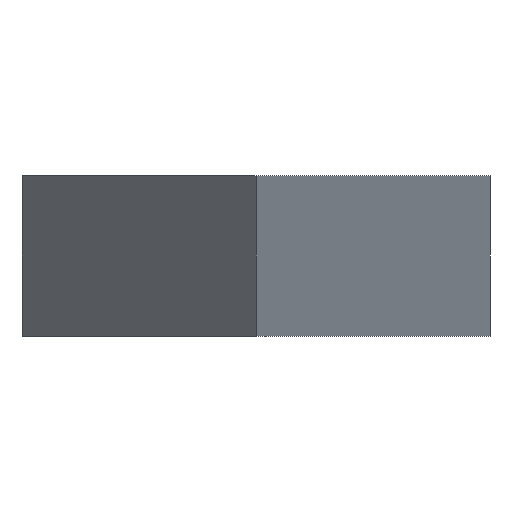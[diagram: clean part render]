
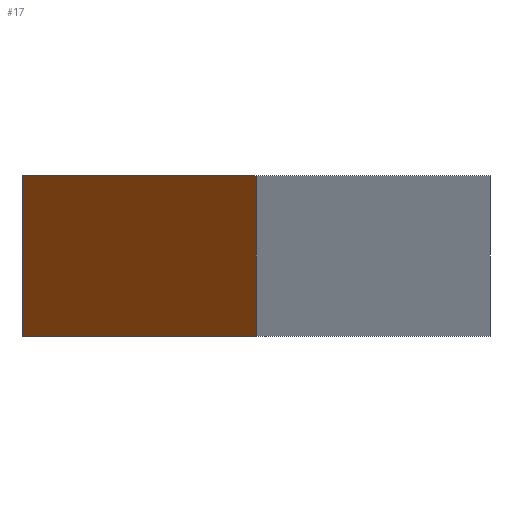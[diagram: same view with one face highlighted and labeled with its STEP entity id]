
A CAD part, front view. The second image highlights one B-rep face of the part: STEP entity #17.
In plain terms, the highlighted planar face has unit normal (-0.981, -0.196, 0).
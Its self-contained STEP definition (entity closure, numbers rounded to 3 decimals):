
#17 = ADVANCED_FACE('',(#18),#32,.F.);
#18 = FACE_BOUND('',#19,.F.);
#19 = EDGE_LOOP('',(#20,#55,#83,#111));
#20 = ORIENTED_EDGE('',*,*,#21,.T.);
#21 = EDGE_CURVE('',#22,#24,#26,.T.);
#22 = VERTEX_POINT('',#23);
#23 = CARTESIAN_POINT('',(-0.035,0.175,-0.012));
#24 = VERTEX_POINT('',#25);
#25 = CARTESIAN_POINT('',(-0.035,0.175,0.012));
#26 = SURFACE_CURVE('',#27,(#31,#43),.PCURVE_S1.);
#27 = LINE('',#28,#29);
#28 = CARTESIAN_POINT('',(-0.035,0.175,-0.012));
#29 = VECTOR('',#30,1.);
#30 = DIRECTION('',(0.,0.,1.));
#31 = PCURVE('',#32,#37);
#32 = PLANE('',#33);
#33 = AXIS2_PLACEMENT_3D('',#34,#35,#36);
#34 = CARTESIAN_POINT('',(-0.035,0.175,-0.012));
#35 = DIRECTION('',(0.981,0.196,-0.));
#36 = DIRECTION('',(0.196,-0.981,0.));
#37 = DEFINITIONAL_REPRESENTATION('',(#38),#42);
#38 = LINE('',#39,#40);
#39 = CARTESIAN_POINT('',(0.,0.));
#40 = VECTOR('',#41,1.);
#41 = DIRECTION('',(0.,-1.));
#42 = ( GEOMETRIC_REPRESENTATION_CONTEXT(2) 
PARAMETRIC_REPRESENTATION_CONTEXT() REPRESENTATION_CONTEXT('2D SPACE',''
  ) );
#43 = PCURVE('',#44,#49);
#44 = PLANE('',#45);
#45 = AXIS2_PLACEMENT_3D('',#46,#47,#48);
#46 = CARTESIAN_POINT('',(-0.035,10.,-0.012));
#47 = DIRECTION('',(1.,0.,-0.));
#48 = DIRECTION('',(0.,-1.,0.));
#49 = DEFINITIONAL_REPRESENTATION('',(#50),#54);
#50 = LINE('',#51,#52);
#51 = CARTESIAN_POINT('',(9.825,0.));
#52 = VECTOR('',#53,1.);
#53 = DIRECTION('',(0.,-1.));
#54 = ( GEOMETRIC_REPRESENTATION_CONTEXT(2) 
PARAMETRIC_REPRESENTATION_CONTEXT() REPRESENTATION_CONTEXT('2D SPACE',''
  ) );
#55 = ORIENTED_EDGE('',*,*,#56,.T.);
#56 = EDGE_CURVE('',#24,#57,#59,.T.);
#57 = VERTEX_POINT('',#58);
#58 = CARTESIAN_POINT('',(0.,0.,0.012));
#59 = SURFACE_CURVE('',#60,(#64,#71),.PCURVE_S1.);
#60 = LINE('',#61,#62);
#61 = CARTESIAN_POINT('',(-0.035,0.175,0.012));
#62 = VECTOR('',#63,1.);
#63 = DIRECTION('',(0.196,-0.981,0.));
#64 = PCURVE('',#32,#65);
#65 = DEFINITIONAL_REPRESENTATION('',(#66),#70);
#66 = LINE('',#67,#68);
#67 = CARTESIAN_POINT('',(0.,-0.024));
#68 = VECTOR('',#69,1.);
#69 = DIRECTION('',(1.,0.));
#70 = ( GEOMETRIC_REPRESENTATION_CONTEXT(2) 
PARAMETRIC_REPRESENTATION_CONTEXT() REPRESENTATION_CONTEXT('2D SPACE',''
  ) );
#71 = PCURVE('',#72,#77);
#72 = PLANE('',#73);
#73 = AXIS2_PLACEMENT_3D('',#74,#75,#76);
#74 = CARTESIAN_POINT('',(0.,5.016,0.012));
#75 = DIRECTION('',(0.,0.,1.));
#76 = DIRECTION('',(1.,0.,-0.));
#77 = DEFINITIONAL_REPRESENTATION('',(#78),#82);
#78 = LINE('',#79,#80);
#79 = CARTESIAN_POINT('',(-0.035,-4.841));
#80 = VECTOR('',#81,1.);
#81 = DIRECTION('',(0.196,-0.981));
#82 = ( GEOMETRIC_REPRESENTATION_CONTEXT(2) 
PARAMETRIC_REPRESENTATION_CONTEXT() REPRESENTATION_CONTEXT('2D SPACE',''
  ) );
#83 = ORIENTED_EDGE('',*,*,#84,.F.);
#84 = EDGE_CURVE('',#85,#57,#87,.T.);
#85 = VERTEX_POINT('',#86);
#86 = CARTESIAN_POINT('',(0.,0.,-0.012));
#87 = SURFACE_CURVE('',#88,(#92,#99),.PCURVE_S1.);
#88 = LINE('',#89,#90);
#89 = CARTESIAN_POINT('',(0.,0.,-0.012));
#90 = VECTOR('',#91,1.);
#91 = DIRECTION('',(0.,0.,1.));
#92 = PCURVE('',#32,#93);
#93 = DEFINITIONAL_REPRESENTATION('',(#94),#98);
#94 = LINE('',#95,#96);
#95 = CARTESIAN_POINT('',(0.178,0.));
#96 = VECTOR('',#97,1.);
#97 = DIRECTION('',(0.,-1.));
#98 = ( GEOMETRIC_REPRESENTATION_CONTEXT(2) 
PARAMETRIC_REPRESENTATION_CONTEXT() REPRESENTATION_CONTEXT('2D SPACE',''
  ) );
#99 = PCURVE('',#100,#105);
#100 = PLANE('',#101);
#101 = AXIS2_PLACEMENT_3D('',#102,#103,#104);
#102 = CARTESIAN_POINT('',(0.,0.,-0.012));
#103 = DIRECTION('',(-0.981,0.196,0.));
#104 = DIRECTION('',(0.196,0.981,0.));
#105 = DEFINITIONAL_REPRESENTATION('',(#106),#110);
#106 = LINE('',#107,#108);
#107 = CARTESIAN_POINT('',(0.,0.));
#108 = VECTOR('',#109,1.);
#109 = DIRECTION('',(0.,-1.));
#110 = ( GEOMETRIC_REPRESENTATION_CONTEXT(2) 
PARAMETRIC_REPRESENTATION_CONTEXT() REPRESENTATION_CONTEXT('2D SPACE',''
  ) );
#111 = ORIENTED_EDGE('',*,*,#112,.F.);
#112 = EDGE_CURVE('',#22,#85,#113,.T.);
#113 = SURFACE_CURVE('',#114,(#118,#125),.PCURVE_S1.);
#114 = LINE('',#115,#116);
#115 = CARTESIAN_POINT('',(-0.035,0.175,-0.012));
#116 = VECTOR('',#117,1.);
#117 = DIRECTION('',(0.196,-0.981,0.));
#118 = PCURVE('',#32,#119);
#119 = DEFINITIONAL_REPRESENTATION('',(#120),#124);
#120 = LINE('',#121,#122);
#121 = CARTESIAN_POINT('',(0.,0.));
#122 = VECTOR('',#123,1.);
#123 = DIRECTION('',(1.,0.));
#124 = ( GEOMETRIC_REPRESENTATION_CONTEXT(2) 
PARAMETRIC_REPRESENTATION_CONTEXT() REPRESENTATION_CONTEXT('2D SPACE',''
  ) );
#125 = PCURVE('',#126,#131);
#126 = PLANE('',#127);
#127 = AXIS2_PLACEMENT_3D('',#128,#129,#130);
#128 = CARTESIAN_POINT('',(0.,5.016,-0.012));
#129 = DIRECTION('',(0.,0.,1.));
#130 = DIRECTION('',(1.,0.,-0.));
#131 = DEFINITIONAL_REPRESENTATION('',(#132),#136);
#132 = LINE('',#133,#134);
#133 = CARTESIAN_POINT('',(-0.035,-4.841));
#134 = VECTOR('',#135,1.);
#135 = DIRECTION('',(0.196,-0.981));
#136 = ( GEOMETRIC_REPRESENTATION_CONTEXT(2) 
PARAMETRIC_REPRESENTATION_CONTEXT() REPRESENTATION_CONTEXT('2D SPACE',''
  ) );
